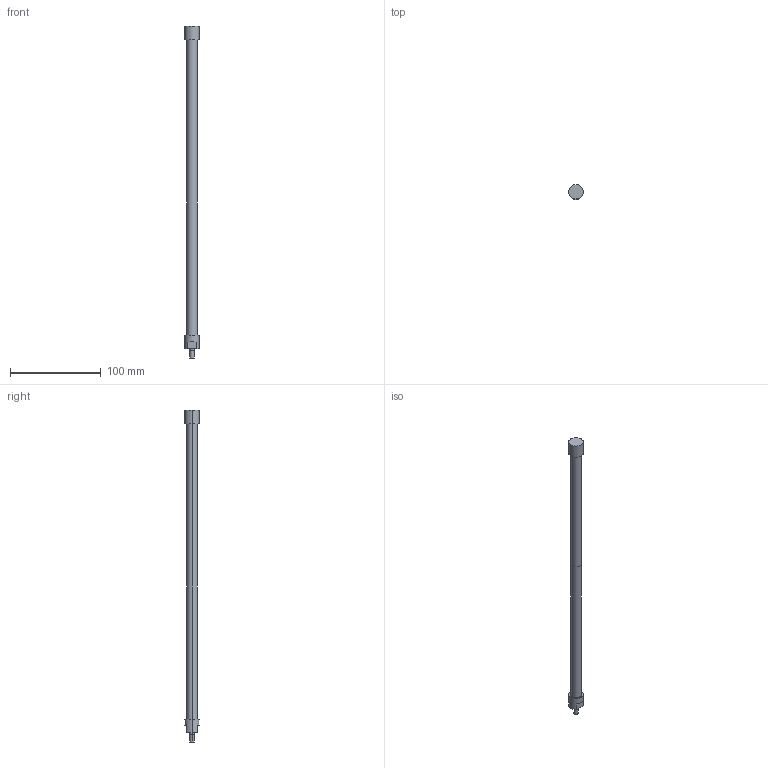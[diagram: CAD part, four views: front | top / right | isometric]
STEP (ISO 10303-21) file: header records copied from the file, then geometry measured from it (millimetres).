
FILE_DESCRIPTION(('STEP AP214'),'1');
FILE_NAME('ETT-R025M365.stp','2015-02-04T08:08:51',(' '),(' '),'Spatial InterOp 3D',' ',' ');
FILE_SCHEMA(('automotive_design'));
Length unit declared in the file: metre
Products named in the file (2): 1; 2
Bounding box: 16 x 16 x 366 mm (x, y, z)
Volume: 26140 mm3; surface area: 20899.6 mm2
Topology: 1 solids, 5 shells, 24 faces, 56 edges, 42 vertices
Faces by surface type: cylinder 12, plane 12
Entity records: 952 total; most frequent: DIRECTION 142, CARTESIAN_POINT 124, ORIENTED_EDGE 100, AXIS2_PLACEMENT_3D 60, EDGE_CURVE 56, VERTEX_POINT 42, CIRCLE 34, EDGE_LOOP 28
